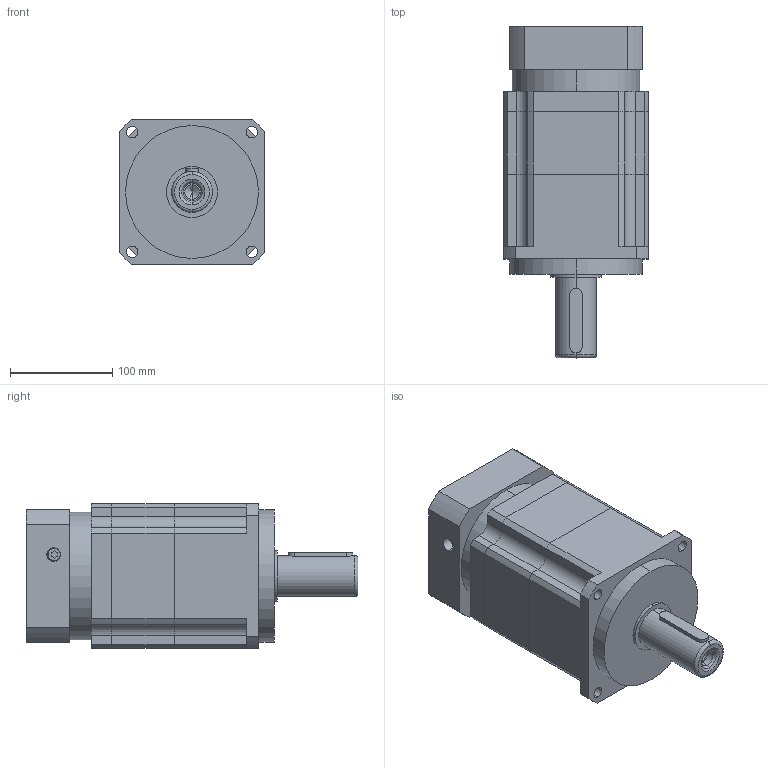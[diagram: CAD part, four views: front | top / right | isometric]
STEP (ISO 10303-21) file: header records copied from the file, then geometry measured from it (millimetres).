
FILE_DESCRIPTION (( 'STEP AP203' ), '1' );
FILE_NAME ('WAB142-L2(1KW)俋倛芞(22-66-110-145-M8).STEP', '2018-09-25T08:06:34', ( 'chuigong' ), ( '' ), 'SwSTEP 2.0', 'SolidWorks 2016', '' );
FILE_SCHEMA (( 'CONFIG_CONTROL_DESIGN' ));
Length unit declared in the file: millimetre
Products named in the file (1): WAB142-L2(1KW)俋倛芞(22-66-110-145-M8)
Bounding box: 142 x 325 x 142 mm (x, y, z)
Volume: 3942472.9 mm3; surface area: 286492.4 mm2
Topology: 4 solids, 4 shells, 225 faces, 584 edges, 377 vertices
Faces by surface type: cylinder 109, plane 96, cone 14, torus 6
Entity records: 7471 total; most frequent: CARTESIAN_POINT 1714, DIRECTION 1240, ORIENTED_EDGE 1148, EDGE_CURVE 574, AXIS2_PLACEMENT_3D 459, VERTEX_POINT 377, VECTOR 322, LINE 322
